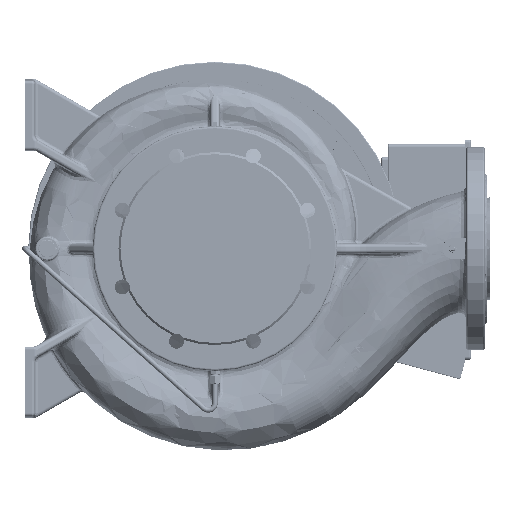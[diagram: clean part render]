
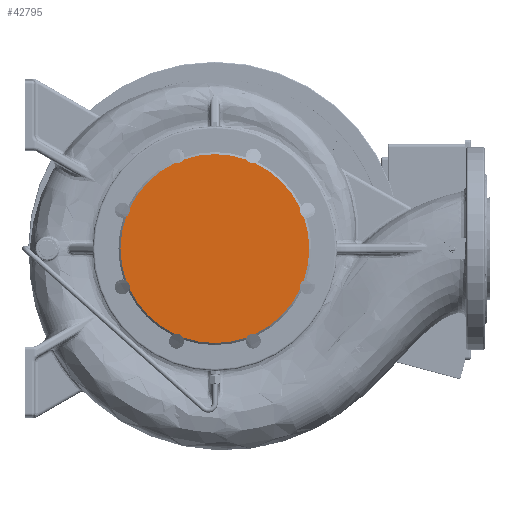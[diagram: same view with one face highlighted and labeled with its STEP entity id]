
A CAD part, front view. The second image highlights one B-rep face of the part: STEP entity #42795.
In plain terms, the highlighted planar face has unit normal (0, -1, 0) as drawn and (0, 0, -1) by its records, which use the part's own axes.
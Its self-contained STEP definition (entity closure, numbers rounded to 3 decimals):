
#4722=CARTESIAN_POINT('',(0.,0.,-160.));
#4723=DIRECTION('',(0.,0.,-1.));
#4724=DIRECTION('',(-0.904,0.427,0.));
#4725=AXIS2_PLACEMENT_3D('',#4722,#4723,#4724);
#4750=CARTESIAN_POINT('',(0.,0.,-160.));
#4751=DIRECTION('',(0.,0.,-1.));
#4752=DIRECTION('',(-0.941,-0.337,0.));
#4753=AXIS2_PLACEMENT_3D('',#4750,#4751,#4752);
#4778=CARTESIAN_POINT('',(0.,0.,-160.));
#4779=DIRECTION('',(0.,0.,-1.));
#4780=DIRECTION('',(-0.427,-0.904,0.));
#4781=AXIS2_PLACEMENT_3D('',#4778,#4779,#4780);
#4806=CARTESIAN_POINT('',(0.,0.,-160.));
#4807=DIRECTION('',(0.,0.,-1.));
#4808=DIRECTION('',(0.337,-0.941,0.));
#4809=AXIS2_PLACEMENT_3D('',#4806,#4807,#4808);
#4834=CARTESIAN_POINT('',(0.,0.,-160.));
#4835=DIRECTION('',(0.,0.,-1.));
#4836=DIRECTION('',(0.904,-0.427,0.));
#4837=AXIS2_PLACEMENT_3D('',#4834,#4835,#4836);
#4862=CARTESIAN_POINT('',(0.,0.,-160.));
#4863=DIRECTION('',(0.,0.,-1.));
#4864=DIRECTION('',(0.941,0.337,0.));
#4865=AXIS2_PLACEMENT_3D('',#4862,#4863,#4864);
#4904=CARTESIAN_POINT('',(0.,0.,-160.));
#4905=DIRECTION('',(0.,0.,-1.));
#4906=DIRECTION('',(-0.337,0.941,0.));
#4907=AXIS2_PLACEMENT_3D('',#4904,#4905,#4906);
#4918=CARTESIAN_POINT('',(0.,0.,-160.));
#4919=DIRECTION('',(0.,0.,-1.));
#4920=DIRECTION('',(0.427,0.904,0.));
#4921=AXIS2_PLACEMENT_3D('',#4918,#4919,#4920);
#4941=CARTESIAN_POINT('',(56.446,136.272,-160.));
#4942=DIRECTION('',(0.,0.,1.));
#4943=DIRECTION('',(-0.871,-0.492,0.));
#4944=AXIS2_PLACEMENT_3D('',#4941,#4942,#4943);
#4946=CARTESIAN_POINT('',(-56.446,136.272,-160.));
#4947=DIRECTION('',(0.,0.,1.));
#4948=DIRECTION('',(-0.268,-0.964,0.));
#4949=AXIS2_PLACEMENT_3D('',#4946,#4947,#4948);
#4951=CARTESIAN_POINT('',(-136.272,56.446,-160.));
#4952=DIRECTION('',(0.,0.,1.));
#4953=DIRECTION('',(0.492,-0.871,0.));
#4954=AXIS2_PLACEMENT_3D('',#4951,#4952,#4953);
#4956=CARTESIAN_POINT('',(-136.272,-56.446,-160.));
#4957=DIRECTION('',(0.,0.,1.));
#4958=DIRECTION('',(0.964,-0.268,0.));
#4959=AXIS2_PLACEMENT_3D('',#4956,#4957,#4958);
#4961=CARTESIAN_POINT('',(-56.446,-136.272,-160.));
#4962=DIRECTION('',(0.,0.,1.));
#4963=DIRECTION('',(0.871,0.492,0.));
#4964=AXIS2_PLACEMENT_3D('',#4961,#4962,#4963);
#4966=CARTESIAN_POINT('',(56.446,-136.272,-160.));
#4967=DIRECTION('',(0.,0.,1.));
#4968=DIRECTION('',(0.268,0.964,0.));
#4969=AXIS2_PLACEMENT_3D('',#4966,#4967,#4968);
#4971=CARTESIAN_POINT('',(136.272,-56.446,-160.));
#4972=DIRECTION('',(0.,0.,1.));
#4973=DIRECTION('',(-0.492,0.871,0.));
#4974=AXIS2_PLACEMENT_3D('',#4971,#4972,#4973);
#4976=CARTESIAN_POINT('',(136.272,56.446,-160.));
#4977=DIRECTION('',(0.,0.,1.));
#4978=DIRECTION('',(-0.964,0.268,0.));
#4979=AXIS2_PLACEMENT_3D('',#4976,#4977,#4978);
#31491=CARTESIAN_POINT('',(-59.39,125.674,-160.));
#31492=CARTESIAN_POINT('',(-46.87,130.86,-160.));
#31493=VERTEX_POINT('',#31491);
#31494=VERTEX_POINT('',#31492);
#31495=CARTESIAN_POINT('',(-130.86,46.87,-160.));
#31496=CARTESIAN_POINT('',(-125.674,59.39,-160.));
#31497=VERTEX_POINT('',#31495);
#31498=VERTEX_POINT('',#31496);
#31499=CARTESIAN_POINT('',(-125.674,-59.39,-160.));
#31500=CARTESIAN_POINT('',(-130.86,-46.87,-160.));
#31501=VERTEX_POINT('',#31499);
#31502=VERTEX_POINT('',#31500);
#31503=CARTESIAN_POINT('',(-46.87,-130.86,-160.));
#31504=CARTESIAN_POINT('',(-59.39,-125.674,-160.));
#31505=VERTEX_POINT('',#31503);
#31506=VERTEX_POINT('',#31504);
#31507=CARTESIAN_POINT('',(59.39,-125.674,-160.));
#31508=CARTESIAN_POINT('',(46.87,-130.86,-160.));
#31509=VERTEX_POINT('',#31507);
#31510=VERTEX_POINT('',#31508);
#31511=CARTESIAN_POINT('',(130.86,-46.87,-160.));
#31512=CARTESIAN_POINT('',(125.674,-59.39,-160.));
#31513=VERTEX_POINT('',#31511);
#31514=VERTEX_POINT('',#31512);
#31515=CARTESIAN_POINT('',(125.674,59.39,-160.));
#31516=CARTESIAN_POINT('',(130.86,46.87,-160.));
#31517=VERTEX_POINT('',#31515);
#31518=VERTEX_POINT('',#31516);
#31519=CARTESIAN_POINT('',(46.87,130.86,-160.));
#31520=CARTESIAN_POINT('',(59.39,125.674,-160.));
#31521=VERTEX_POINT('',#31519);
#31522=VERTEX_POINT('',#31520);
#42766=CARTESIAN_POINT('',(0.,0.,-160.));
#42767=DIRECTION('',(0.,0.,-1.));
#42768=DIRECTION('',(1.,0.,0.));
#42769=AXIS2_PLACEMENT_3D('',#42766,#42767,#42768);
#42770=PLANE('',#42769);
#42771=ORIENTED_EDGE('',*,*,#42618,.F.);
#42772=ORIENTED_EDGE('',*,*,#42728,.F.);
#42774=ORIENTED_EDGE('',*,*,#42773,.F.);
#42775=ORIENTED_EDGE('',*,*,#42636,.F.);
#42776=ORIENTED_EDGE('',*,*,#42754,.F.);
#42777=ORIENTED_EDGE('',*,*,#42651,.F.);
#42779=ORIENTED_EDGE('',*,*,#42778,.F.);
#42780=ORIENTED_EDGE('',*,*,#42666,.F.);
#42782=ORIENTED_EDGE('',*,*,#42781,.F.);
#42783=ORIENTED_EDGE('',*,*,#42681,.F.);
#42785=ORIENTED_EDGE('',*,*,#42784,.F.);
#42786=ORIENTED_EDGE('',*,*,#42696,.F.);
#42788=ORIENTED_EDGE('',*,*,#42787,.F.);
#42789=ORIENTED_EDGE('',*,*,#42711,.F.);
#42791=ORIENTED_EDGE('',*,*,#42790,.F.);
#42792=ORIENTED_EDGE('',*,*,#42739,.F.);
#42793=EDGE_LOOP('',(#42771,#42772,#42774,#42775,#42776,#42777,#42779,#42780,
#42782,#42783,#42785,#42786,#42788,#42789,#42791,#42792));
#42794=FACE_OUTER_BOUND('',#42793,.F.);
#42795=ADVANCED_FACE('',(#42794),#42770,.T.);
#4726=CIRCLE('',#4725,139.);
#4754=CIRCLE('',#4753,139.);
#4782=CIRCLE('',#4781,139.);
#4810=CIRCLE('',#4809,139.);
#4838=CIRCLE('',#4837,139.);
#4866=CIRCLE('',#4865,139.);
#4908=CIRCLE('',#4907,139.);
#4922=CIRCLE('',#4921,139.);
#4945=CIRCLE('',#4944,11.);
#4950=CIRCLE('',#4949,11.);
#4955=CIRCLE('',#4954,11.);
#4960=CIRCLE('',#4959,11.);
#4965=CIRCLE('',#4964,11.);
#4970=CIRCLE('',#4969,11.);
#4975=CIRCLE('',#4974,11.);
#4980=CIRCLE('',#4979,11.);
#42618=EDGE_CURVE('',#31521,#31522,#4945,.T.);
#42636=EDGE_CURVE('',#31498,#31493,#4726,.T.);
#42651=EDGE_CURVE('',#31502,#31497,#4754,.T.);
#42666=EDGE_CURVE('',#31506,#31501,#4782,.T.);
#42681=EDGE_CURVE('',#31510,#31505,#4810,.T.);
#42696=EDGE_CURVE('',#31514,#31509,#4838,.T.);
#42711=EDGE_CURVE('',#31518,#31513,#4866,.T.);
#42728=EDGE_CURVE('',#31494,#31521,#4908,.T.);
#42739=EDGE_CURVE('',#31522,#31517,#4922,.T.);
#42754=EDGE_CURVE('',#31497,#31498,#4955,.T.);
#42773=EDGE_CURVE('',#31493,#31494,#4950,.T.);
#42778=EDGE_CURVE('',#31501,#31502,#4960,.T.);
#42781=EDGE_CURVE('',#31505,#31506,#4965,.T.);
#42784=EDGE_CURVE('',#31509,#31510,#4970,.T.);
#42787=EDGE_CURVE('',#31513,#31514,#4975,.T.);
#42790=EDGE_CURVE('',#31517,#31518,#4980,.T.);
